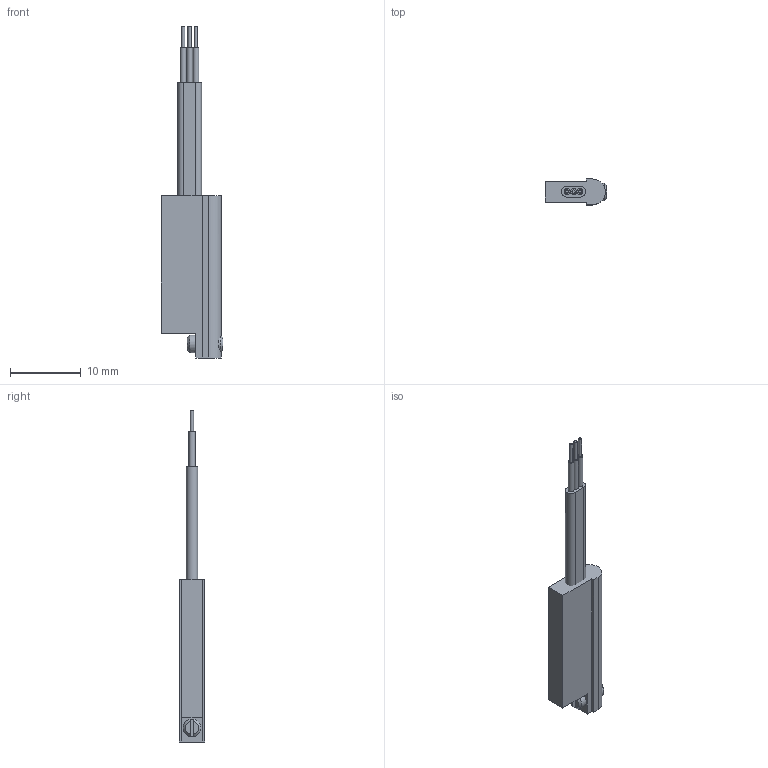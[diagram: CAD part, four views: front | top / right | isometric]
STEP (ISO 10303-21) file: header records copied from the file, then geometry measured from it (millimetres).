
FILE_DESCRIPTION (( 'STEP AP203' ), '1' );
FILE_NAME ('ssy4n225-g.STEP', '2019-02-19T16:23:38', ( '' ), ( '' ), 'SwSTEP 2.0', 'SolidWorks 2018', '' );
FILE_SCHEMA (( 'CONFIG_CONTROL_DESIGN' ));
Length unit declared in the file: millimetre
Products named in the file (3): ssy4n225-g; Copia di Parte1^SSY4N225-G; Copia di SS.003.001A^SSY4N225-G
Assembly tree (2 placements, depth 2):
  ssy4n225-g
    Copia di SS.003.001A^SSY4N225-G
    Copia di Parte1^SSY4N225-G
Bounding box: 8.7 x 3.65 x 47 mm (x, y, z)
Volume: 645.7 mm3; surface area: 786.2 mm2
Topology: 2 solids, 2 shells, 45 faces, 105 edges, 71 vertices
Faces by surface type: plane 29, cylinder 13, cone 3
Full cylindrical faces by diameter (mm): 0.45 x3, 0.85 x3, 2.5 x1
Entity records: 1545 total; most frequent: CARTESIAN_POINT 258, DIRECTION 214, ORIENTED_EDGE 184, EDGE_CURVE 92, AXIS2_PLACEMENT_3D 82, VERTEX_POINT 66, EDGE_LOOP 60, FACE_OUTER_BOUND 52
